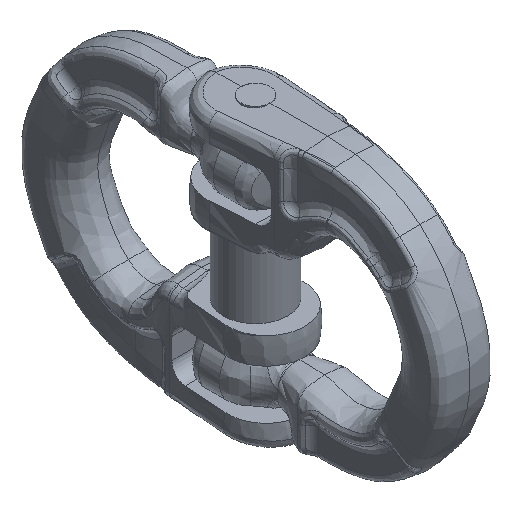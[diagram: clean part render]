
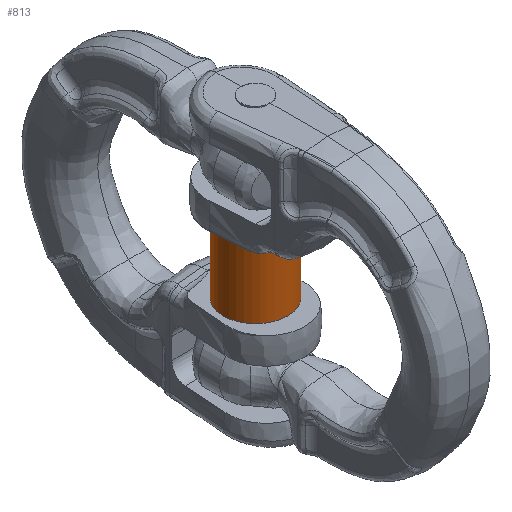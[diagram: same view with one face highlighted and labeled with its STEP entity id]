
A CAD part, isometric view. The second image highlights one B-rep face of the part: STEP entity #813.
In plain terms, the highlighted cylindrical face has radius 4.5 mm (diameter 9 mm), a full revolution.
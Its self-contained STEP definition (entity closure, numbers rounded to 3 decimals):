
#86=FACE_BOUND('',#1844,.T.);
#87=FACE_BOUND('',#1845,.T.);
#290=CYLINDRICAL_SURFACE('',#6389,4.5);
#813=ADVANCED_FACE('',(#86,#87),#290,.T.);
#1844=EDGE_LOOP('',(#4302));
#1845=EDGE_LOOP('',(#4303));
#4302=ORIENTED_EDGE('',*,*,#5784,.F.);
#4303=ORIENTED_EDGE('',*,*,#5785,.T.);
#4854=VERTEX_POINT('',#36402);
#4855=VERTEX_POINT('',#36404);
#5784=EDGE_CURVE('',#4854,#4854,#6018,.T.);
#5785=EDGE_CURVE('',#4855,#4855,#6019,.T.);
#6018=CIRCLE('',#6387,4.5);
#6019=CIRCLE('',#6388,4.5);
#6387=AXIS2_PLACEMENT_3D('',#36401,#7182,#7183);
#6388=AXIS2_PLACEMENT_3D('',#36403,#7184,#7185);
#6389=AXIS2_PLACEMENT_3D('',#36405,#7186,#7187);
#7182=DIRECTION('',(0.,0.,1.));
#7183=DIRECTION('',(1.,0.002,0.));
#7184=DIRECTION('',(0.,0.,1.));
#7185=DIRECTION('',(1.,0.002,0.));
#7186=DIRECTION('',(0.,0.,-1.));
#7187=DIRECTION('',(-1.,-0.002,0.));
#36401=CARTESIAN_POINT('',(0.,0.,
10.097));
#36402=CARTESIAN_POINT('',(4.5,0.009,10.097));
#36403=CARTESIAN_POINT('',(0.,0.,
0.097));
#36404=CARTESIAN_POINT('',(4.5,0.009,0.097));
#36405=CARTESIAN_POINT('',(0.,0.,
10.097));
